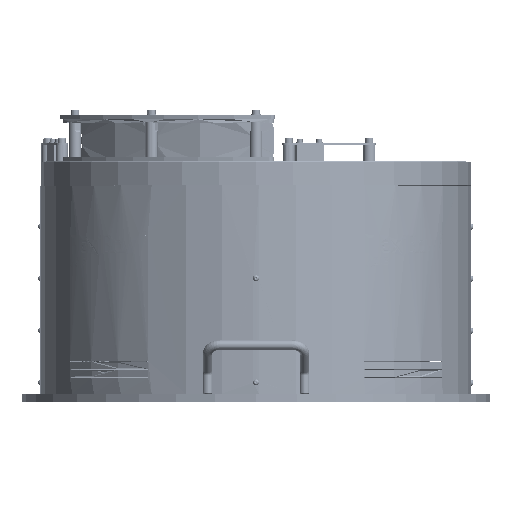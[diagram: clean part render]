
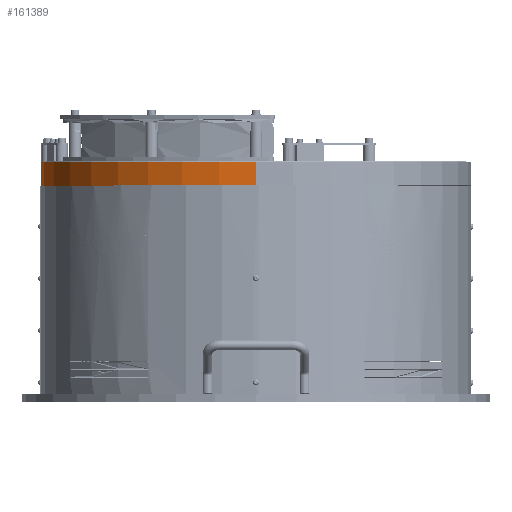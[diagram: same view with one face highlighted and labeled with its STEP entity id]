
A CAD part, top view. The second image highlights one B-rep face of the part: STEP entity #161389.
In plain terms, the highlighted cylindrical face has radius 266.5 mm (diameter 533 mm), a partial arc.
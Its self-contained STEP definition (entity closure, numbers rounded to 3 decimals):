
#1058 = EDGE_CURVE ( 'NONE', #303413, #20127, #341910, .T. ) ;
#2760 = CYLINDRICAL_SURFACE ( 'NONE', #453872, 266.5 ) ;
#5389 = CARTESIAN_POINT ( 'NONE',  ( 0., -266.5, 0. ) ) ;
#20127 = VERTEX_POINT ( 'NONE', #107101 ) ;
#35271 = VECTOR ( 'NONE', #91426, 1000. ) ;
#40680 = VECTOR ( 'NONE', #149317, 1000. ) ;
#55165 = EDGE_LOOP ( 'NONE', ( #125457, #321172, #158769, #233834 ) ) ;
#76888 = EDGE_CURVE ( 'NONE', #236428, #392765, #151576, .T. ) ;
#78921 = DIRECTION ( 'NONE',  ( 0., 0., -1. ) ) ;
#88973 = AXIS2_PLACEMENT_3D ( 'NONE', #392141, #78921, #148539 ) ;
#89156 = CARTESIAN_POINT ( 'NONE',  ( -266.5, 0., 30. ) ) ;
#91426 = DIRECTION ( 'NONE',  ( 0., 0., -1. ) ) ;
#107101 = CARTESIAN_POINT ( 'NONE',  ( -266.5, 0., 0. ) ) ;
#125457 = ORIENTED_EDGE ( 'NONE', *, *, #76888, .F. ) ;
#126400 = AXIS2_PLACEMENT_3D ( 'NONE', #442211, #296128, #407361 ) ;
#144385 = CARTESIAN_POINT ( 'NONE',  ( 0., 0., 30. ) ) ;
#146692 = DIRECTION ( 'NONE',  ( -1., 0., 0. ) ) ;
#148539 = DIRECTION ( 'NONE',  ( 1., 0., 0. ) ) ;
#149317 = DIRECTION ( 'NONE',  ( 0., 0., -1. ) ) ;
#151576 = LINE ( 'NONE', #223601, #40680 ) ;
#158769 = ORIENTED_EDGE ( 'NONE', *, *, #1058, .T. ) ;
#161389 = ADVANCED_FACE ( 'NONE', ( #320751 ), #2760, .T. ) ;
#210300 = CARTESIAN_POINT ( 'NONE',  ( -266.5, 0., 29. ) ) ;
#223601 = CARTESIAN_POINT ( 'NONE',  ( 0., -266.5, 30. ) ) ;
#233834 = ORIENTED_EDGE ( 'NONE', *, *, #289100, .T. ) ;
#236428 = VERTEX_POINT ( 'NONE', #432753 ) ;
#285921 = DIRECTION ( 'NONE',  ( 0., 0., -1. ) ) ;
#289020 = CIRCLE ( 'NONE', #88973, 266.5 ) ;
#289100 = EDGE_CURVE ( 'NONE', #20127, #392765, #392271, .T. ) ;
#296128 = DIRECTION ( 'NONE',  ( 0., 0., 1. ) ) ;
#303413 = VERTEX_POINT ( 'NONE', #210300 ) ;
#320751 = FACE_OUTER_BOUND ( 'NONE', #55165, .T. ) ;
#321172 = ORIENTED_EDGE ( 'NONE', *, *, #362541, .T. ) ;
#341910 = LINE ( 'NONE', #89156, #35271 ) ;
#362541 = EDGE_CURVE ( 'NONE', #236428, #303413, #289020, .T. ) ;
#392141 = CARTESIAN_POINT ( 'NONE',  ( 0., 0., 29. ) ) ;
#392271 = CIRCLE ( 'NONE', #126400, 266.5 ) ;
#392765 = VERTEX_POINT ( 'NONE', #5389 ) ;
#407361 = DIRECTION ( 'NONE',  ( 1., 0., 0. ) ) ;
#432753 = CARTESIAN_POINT ( 'NONE',  ( 0., -266.5, 29. ) ) ;
#442211 = CARTESIAN_POINT ( 'NONE',  ( 0., 0., 0. ) ) ;
#453872 = AXIS2_PLACEMENT_3D ( 'NONE', #144385, #285921, #146692 ) ;
